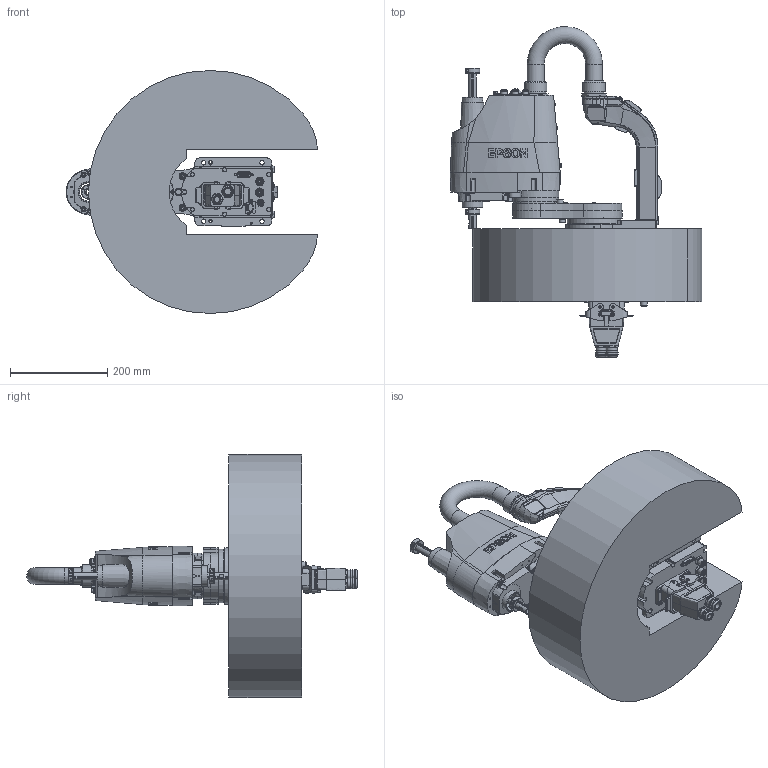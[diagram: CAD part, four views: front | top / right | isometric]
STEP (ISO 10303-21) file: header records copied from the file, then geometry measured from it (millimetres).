
FILE_DESCRIPTION( ( 'STEP AP214' ), '1' );
FILE_NAME( 'C:/Users/9607552/Desktop/GX4-A/GX4-A251SB-SW.stp', '2023-04-07T04:34:02', ( '' ), ( '' ), ' ', 'PARTsolutions', ' ' );
FILE_SCHEMA( ( 'AUTOMOTIVE_DESIGN { 1 0 10303 214 1 1 1 1 }' ) );
Length unit declared in the file: millimetre
Products named in the file (8): GX4-A251SB-SW; _A251SBbasesb; _A251S_J1_ARM; _A251S-a; _A251S_CONDUIT; _A251S; _Straight; _GX4-21_WS
Assembly tree (7 placements, depth 2):
  GX4-A251SB-SW
    _A251SBbasesb
    _A251S_J1_ARM
    _A251S-a
    _A251S_CONDUIT
    _A251S
    _Straight
    _GX4-21_WS
Bounding box: 517.13 x 680 x 500 mm (x, y, z)
Volume: 29621075 mm3; surface area: 1307576.3 mm2
Topology: 7 solids, 7 shells, 3939 faces, 9741 edges, 6349 vertices
Faces by surface type: plane 2292, cylinder 1099, cone 351, torus 110, bspline 86, sphere 1
Full cylindrical faces by diameter (mm): 1 x30, 1.13 x55, 1.18 x55, 2.459 x4, 2.5 x16, 3 x48, 3.2 x4, 3.242 x1, 3.3 x39, 3.4 x32, 3.5 x12, 4 x3, 4.5 x16, 4.8 x4, 4.917 x2, 5.34 x8, 5.4 x14, 5.5 x26, 5.6 x2, 5.68 x4, 6 x21, 6.5 x12, 6.7 x4, 6.8 x4, 6.98 x4, 7 x37, 7.1 x4, 8 x21, 8.2 x8, 8.98 x2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
Entity records: 149418 total; most frequent: CARTESIAN_POINT 29150, ORIENTED_EDGE 17680, DIRECTION 17539, EDGE_CURVE 8840, AXIS2_PLACEMENT_3D 6652, VERTEX_POINT 6257, EDGE_LOOP 5334, FACE_OUTER_BOUND 4564
